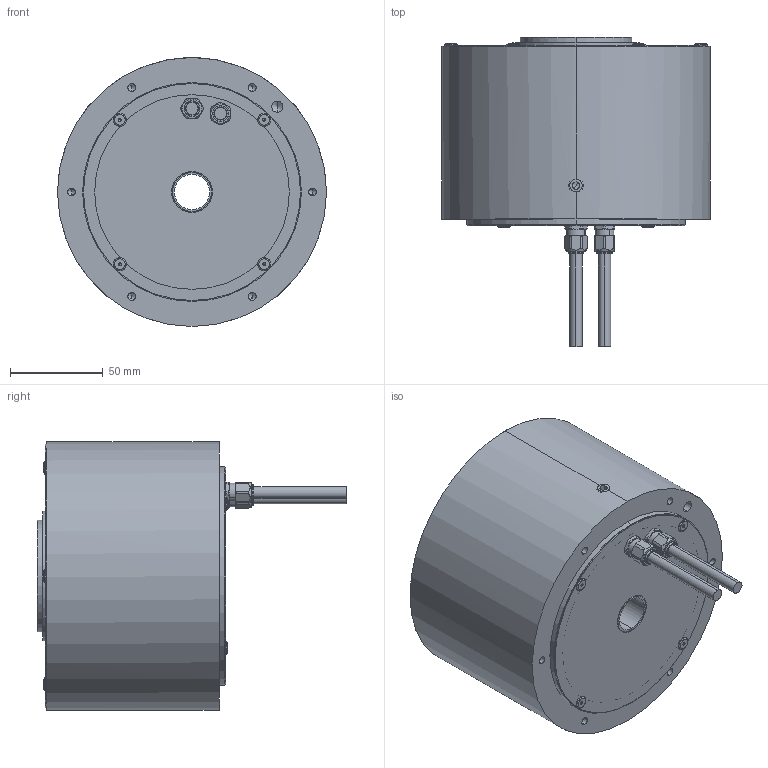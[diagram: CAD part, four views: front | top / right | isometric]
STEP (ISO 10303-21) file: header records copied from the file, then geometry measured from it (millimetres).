
FILE_DESCRIPTION (( 'STEP AP214' ), '1' );
FILE_NAME ('ND140-95-LS(ABS).step', '2025-03-10T05:46:16', ( '' ), ( '' ), 'SwSTEP 2.0', 'SolidWorks 2024', '' );
FILE_SCHEMA (( 'AUTOMOTIVE_DESIGN' ));
Length unit declared in the file: millimetre
Products named in the file (1): ND140-95-LS(ABS)
Bounding box: 145 x 166.8 x 145 mm (x, y, z)
Volume: 516617.2 mm3; surface area: 174276.8 mm2
Topology: 19 solids, 19 shells, 637 faces, 1596 edges, 979 vertices
Faces by surface type: cylinder 354, cone 135, plane 96, torus 30, sphere 22
Entity records: 20065 total; most frequent: CARTESIAN_POINT 4815, DIRECTION 3274, ORIENTED_EDGE 3040, EDGE_CURVE 1520, AXIS2_PLACEMENT_3D 1358, VERTEX_POINT 979, EDGE_LOOP 733, CIRCLE 720
